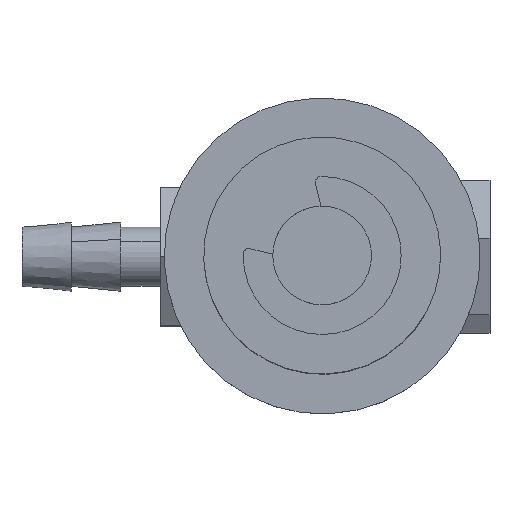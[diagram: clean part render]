
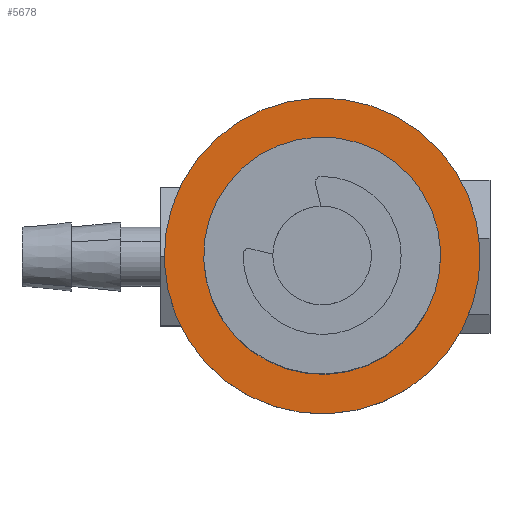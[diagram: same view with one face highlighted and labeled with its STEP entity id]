
A CAD part, top view. The second image highlights one B-rep face of the part: STEP entity #5678.
In plain terms, the highlighted planar face has unit normal (0, 0, 1).
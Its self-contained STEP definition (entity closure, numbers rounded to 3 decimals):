
#190 = ORIENTED_EDGE ( 'NONE', *, *, #9178, .T. ) ;
#502 = AXIS2_PLACEMENT_3D ( 'NONE', #2730, #7688, #3450 ) ;
#630 = AXIS2_PLACEMENT_3D ( 'NONE', #8273, #4070, #8974 ) ;
#701 = EDGE_CURVE ( 'NONE', #1728, #8416, #1439, .T. ) ;
#998 = CIRCLE ( 'NONE', #502, 6. ) ;
#1439 = CIRCLE ( 'NONE', #6542, 6. ) ;
#1728 = VERTEX_POINT ( 'NONE', #7279 ) ;
#1790 = CARTESIAN_POINT ( 'NONE',  ( 6.249, 1.537, 8.25 ) ) ;
#2115 = EDGE_LOOP ( 'NONE', ( #5047, #7132 ) ) ;
#2476 = ORIENTED_EDGE ( 'NONE', *, *, #4428, .T. ) ;
#2529 = FACE_OUTER_BOUND ( 'NONE', #8109, .T. ) ;
#2673 = DIRECTION ( 'NONE',  ( 0., 0., 1. ) ) ;
#2730 = CARTESIAN_POINT ( 'NONE',  ( -1.565, -0.177, 8.25 ) ) ;
#3125 = DIRECTION ( 'NONE',  ( 0., 0., 1. ) ) ;
#3450 = DIRECTION ( 'NONE',  ( -0.214, 0.977, 0. ) ) ;
#4070 = DIRECTION ( 'NONE',  ( 0., 0., 1. ) ) ;
#4428 = EDGE_CURVE ( 'NONE', #9107, #7525, #9123, .T. ) ;
#4435 = FACE_BOUND ( 'NONE', #2115, .T. ) ;
#4880 = DIRECTION ( 'NONE',  ( 0., 0., -1. ) ) ;
#4895 = CARTESIAN_POINT ( 'NONE',  ( -1.565, -0.177, 8.25 ) ) ;
#5047 = ORIENTED_EDGE ( 'NONE', *, *, #701, .T. ) ;
#5056 = CARTESIAN_POINT ( 'NONE',  ( -0.28, -6.038, 8.25 ) ) ;
#5678 = ADVANCED_FACE ( 'NONE', ( #4435, #2529 ), #8039, .T. ) ;
#5774 = CIRCLE ( 'NONE', #630, 8. ) ;
#6007 = AXIS2_PLACEMENT_3D ( 'NONE', #6923, #2673, #7635 ) ;
#6542 = AXIS2_PLACEMENT_3D ( 'NONE', #4895, #4880, #7612 ) ;
#6923 = CARTESIAN_POINT ( 'NONE',  ( -1.565, -0.177, 8.25 ) ) ;
#7132 = ORIENTED_EDGE ( 'NONE', *, *, #7718, .T. ) ;
#7279 = CARTESIAN_POINT ( 'NONE',  ( -2.851, 5.684, 8.25 ) ) ;
#7352 = CARTESIAN_POINT ( 'NONE',  ( -9.379, -1.891, 8.25 ) ) ;
#7357 = AXIS2_PLACEMENT_3D ( 'NONE', #7366, #3125, #8069 ) ;
#7366 = CARTESIAN_POINT ( 'NONE',  ( -7.739, -9.82, 8.25 ) ) ;
#7525 = VERTEX_POINT ( 'NONE', #1790 ) ;
#7612 = DIRECTION ( 'NONE',  ( -0.214, 0.977, 0. ) ) ;
#7635 = DIRECTION ( 'NONE',  ( -0.977, -0.214, 0. ) ) ;
#7688 = DIRECTION ( 'NONE',  ( 0., 0., -1. ) ) ;
#7718 = EDGE_CURVE ( 'NONE', #8416, #1728, #998, .T. ) ;
#8039 = PLANE ( 'NONE',  #7357 ) ;
#8069 = DIRECTION ( 'NONE',  ( 0.977, 0.214, 0. ) ) ;
#8109 = EDGE_LOOP ( 'NONE', ( #2476, #190 ) ) ;
#8273 = CARTESIAN_POINT ( 'NONE',  ( -1.565, -0.177, 8.25 ) ) ;
#8416 = VERTEX_POINT ( 'NONE', #5056 ) ;
#8974 = DIRECTION ( 'NONE',  ( -0.977, -0.214, 0. ) ) ;
#9107 = VERTEX_POINT ( 'NONE', #7352 ) ;
#9123 = CIRCLE ( 'NONE', #6007, 8. ) ;
#9178 = EDGE_CURVE ( 'NONE', #7525, #9107, #5774, .T. ) ;
